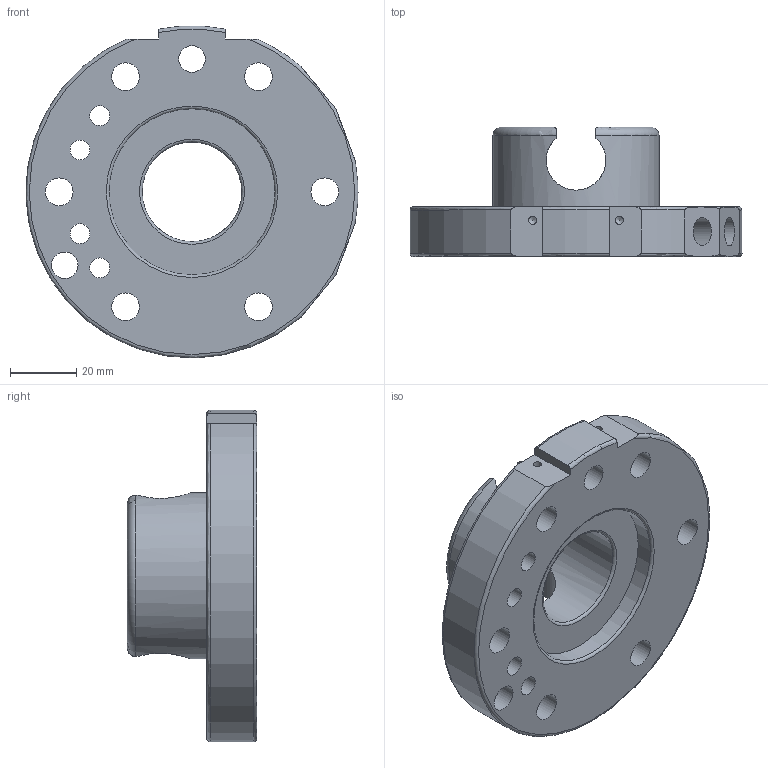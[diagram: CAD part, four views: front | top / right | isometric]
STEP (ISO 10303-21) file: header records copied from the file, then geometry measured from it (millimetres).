
FILE_DESCRIPTION(/* description */ (''),/* implementation_level */ '2;1');
FILE_NAME(/* name */ 'T:\Engineering\Homepage\Homepage 2020\4 3D Step-Daten - Homepage\4 SHW\G-SHW100-2UEP.stp',/* time_stamp */ '2023-06-30T11:06:44+02:00',/* author */ ('ysplieth'),/* organization */ (''),/* preprocessor_version */ 'ST-DEVELOPER v17',/* originating_system */ 'Autodesk Inventor 2018',/* authorisation */ '');
FILE_SCHEMA (('AUTOMOTIVE_DESIGN { 1 0 10303 214 3 1 1 }'));
Length unit declared in the file: millimetre
Products named in the file (1): Bauteil12
Bounding box: 99.97 x 39 x 99.87 mm (x, y, z)
Volume: 103357.2 mm3; surface area: 32387.2 mm2
Topology: 1 solids, 1 shells, 80 faces, 251 edges, 180 vertices
Faces by surface type: cylinder 37, plane 27, torus 10, cone 6
Full cylindrical faces by diameter (mm): 2.459 x2, 6 x8, 8 x2, 8.376 x6, 8.566 x4, 15 x6, 30 x1, 50 x2
Entity records: 3643 total; most frequent: CARTESIAN_POINT 1170, ORIENTED_EDGE 490, DIRECTION 487, EDGE_CURVE 245, AXIS2_PLACEMENT_3D 205, VERTEX_POINT 180, EDGE_LOOP 127, CIRCLE 124
